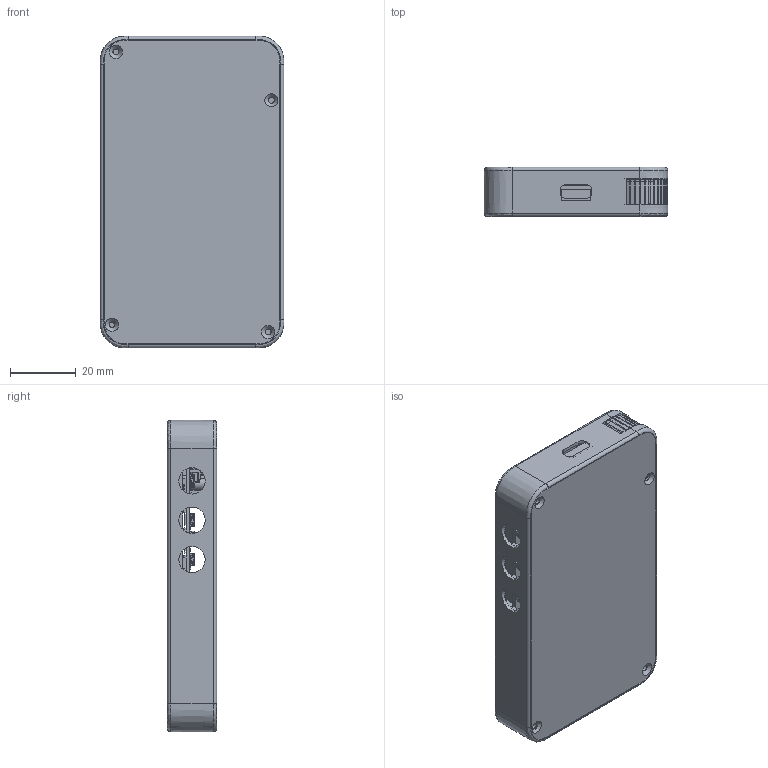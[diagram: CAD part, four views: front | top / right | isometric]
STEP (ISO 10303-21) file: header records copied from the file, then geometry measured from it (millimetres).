
FILE_DESCRIPTION(('Open CASCADE Model'),'2;1');
FILE_NAME('Open CASCADE Shape Model','2026-10-24T17:46:20',('Author'),( 'Open CASCADE'),'Open CASCADE STEP processor 8.0','Open CASCADE 8.0' ,'Unknown');
FILE_SCHEMA(('AUTOMOTIVE_DESIGN { 1 0 10303 214 1 1 1 1 }'));
Length unit declared in the file: millimetre
Products named in the file (186): Open CASCADE STEP translator 8.0 5; Open CASCADE STEP translator 8.0 5.1; Open CASCADE STEP translator 8.0 5.2; Open CASCADE STEP translator 8.0 5.3; Open CASCADE STEP translator 8.0 5.3.1; Open CASCADE STEP translator 8.0 5.3.2; Open CASCADE STEP translator 8.0 5.3.3; Open CASCADE STEP translator 8.0 5.3.4; Open CASCADE STEP translator 8.0 5.3.5; Open CASCADE STEP translator 8.0 5.3.6; Open CASCADE STEP translator 8.0 5.3.7; Open CASCADE STEP translator 8.0 5.3.8; Open CASCADE STEP translator 8.0 5.3.9; Open CASCADE STEP translator 8.0 5.3.10; Open CASCADE STEP translator 8.0 5.3.11; Open CASCADE STEP translator 8.0 5.3.12; Open CASCADE STEP translator 8.0 5.3.13; Open CASCADE STEP translator 8.0 5.3.14; Open CASCADE STEP translator 8.0 5.3.15; Open CASCADE STEP translator 8.0 5.3.16; Open CASCADE STEP translator 8.0 5.3.17; Open CASCADE STEP translator 8.0 5.3.18; Open CASCADE STEP translator 8.0 5.3.19; Open CASCADE STEP translator 8.0 5.3.20; Open CASCADE STEP translator 8.0 5.3.21; Open CASCADE STEP translator 8.0 5.3.22; Open CASCADE STEP translator 8.0 5.3.23; Open CASCADE STEP translator 8.0 5.3.24; Open CASCADE STEP translator 8.0 5.3.25; Open CASCADE STEP translator 8.0 5.3.26; Open CASCADE STEP translator 8.0 5.3.27; Open CASCADE STEP translator 8.0 5.3.28; Open CASCADE STEP translator 8.0 5.3.29; Open CASCADE STEP translator 8.0 5.3.30; Open CASCADE STEP translator 8.0 5.3.31; Open CASCADE STEP translator 8.0 5.3.32; Open CASCADE STEP translator 8.0 5.3.33; Open CASCADE STEP translator 8.0 5.3.34; Open CASCADE STEP translator 8.0 5.3.35; Open CASCADE STEP translator 8.0 5.3.36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
Assembly tree (185 placements, depth 3):
  Open CASCADE STEP translator 8.0 5
    Open CASCADE STEP translator 8.0 5.1
    Open CASCADE STEP translator 8.0 5.2
    Open CASCADE STEP translator 8.0 5.3
      Open CASCADE STEP translator 8.0 5.3.1
      Open CASCADE STEP translator 8.0 5.3.2
      Open CASCADE STEP translator 8.0 5.3.3
      Open CASCADE STEP translator 8.0 5.3.4
      Open CASCADE STEP translator 8.0 5.3.5
      Open CASCADE STEP translator 8.0 5.3.6
      Open CASCADE STEP translator 8.0 5.3.7
      Open CASCADE STEP translator 8.0 5.3.8
      Open CASCADE STEP translator 8.0 5.3.9
      Open CASCADE STEP translator 8.0 5.3.10
      Open CASCADE STEP translator 8.0 5.3.11
      Open CASCADE STEP translator 8.0 5.3.12
      Open CASCADE STEP translator 8.0 5.3.13
      Open CASCADE STEP translator 8.0 5.3.14
      Open CASCADE STEP translator 8.0 5.3.15
      Open CASCADE STEP translator 8.0 5.3.16
      Open CASCADE STEP translator 8.0 5.3.17
      Open CASCADE STEP translator 8.0 5.3.18
      Open CASCADE STEP translator 8.0 5.3.19
      Open CASCADE STEP translator 8.0 5.3.20
      Open CASCADE STEP translator 8.0 5.3.21
      Open CASCADE STEP translator 8.0 5.3.22
      Open CASCADE STEP translator 8.0 5.3.23
      Open CASCADE STEP translator 8.0 5.3.24
      Open CASCADE STEP translator 8.0 5.3.25
      Open CASCADE STEP translator 8.0 5.3.26
      Open CASCADE STEP translator 8.0 5.3.27
      Open CASCADE STEP translator 8.0 5.3.28
      Open CASCADE STEP translator 8.0 5.3.29
      Open CASCADE STEP translator 8.0 5.3.30
      Open CASCADE STEP translator 8.0 5.3.31
      Open CASCADE STEP translator 8.0 5.3.32
      Open CASCADE STEP translator 8.0 5.3.33
      Open CASCADE STEP translator 8.0 5.3.34
      Open CASCADE STEP translator 8.0 5.3.35
      Open CASCADE STEP translator 8.0 5.3.36
      Open CASCADE STEP translator 8.0 5.3.37
      Open CASCADE STEP translator 8.0 5.3.38
      Open CASCADE STEP translator 8.0 5.3.39
      Open CASCADE STEP translator 8.0 5.3.40
      Open CASCADE STEP translator 8.0 5.3.41
      Open CASCADE STEP translator 8.0 5.3.42
      Open CASCADE STEP translator 8.0 5.3.43
      Open CASCADE STEP translator 8.0 5.3.44
      Open CASCADE STEP translator 8.0 5.3.45
      Open CASCADE STEP translator 8.0 5.3.46
      Open CASCADE STEP translator 8.0 5.3.47
      Open CASCADE STEP translator 8.0 5.3.48
      Open CASCADE STEP translator 8.0 5.3.49
      Open CASCADE STEP translator 8.0 5.3.50
      Open CASCADE STEP translator 8.0 5.3.51
      Open CASCADE STEP translator 8.0 5.3.52
      Open CASCADE STEP translator 8.0 5.3.53
      Open CASCADE STEP translator 8.0 5.3.54
      Open CASCADE STEP translator 8.0 5.3.55
      Open CASCADE STEP translator 8.0 5.3.56
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Bounding box: 56 x 15 x 95 mm (x, y, z)
Volume: 18965.5 mm3; surface area: 41289.9 mm2
Topology: 183 solids, 183 shells, 4316 faces, 11090 edges, 7234 vertices
Faces by surface type: plane 3186, cylinder 994, bspline 68, cone 44, sphere 16, revolution 8
Full cylindrical faces by diameter (mm): 0.6 x10, 0.9 x1, 1.1 x3, 1.6 x2, 1.75 x9, 2 x55, 2.2 x1, 2.4 x3, 2.55 x1, 2.6 x3, 2.8 x5, 2.95 x1, 3.8 x4, 3.95 x1, 4 x1, 4.5 x3, 5 x7, 5.5 x1, 6 x2, 6.1 x1, 6.4 x1, 8 x4, 14 x2, 15.36 x1, 15.4 x1, 16.4 x3, 17 x1
Entity records: 290621 total; most frequent: CARTESIAN_POINT 63543, DIRECTION 42412, LINE 27838, VECTOR 27838, ORIENTED_EDGE 22148, PCURVE 22148, DEFINITIONAL_REPRESENTATION 22148, EDGE_CURVE 11074
